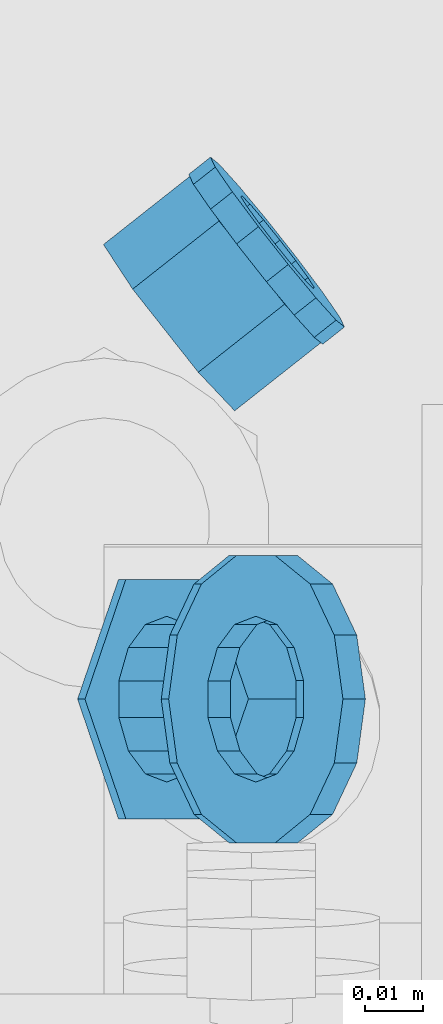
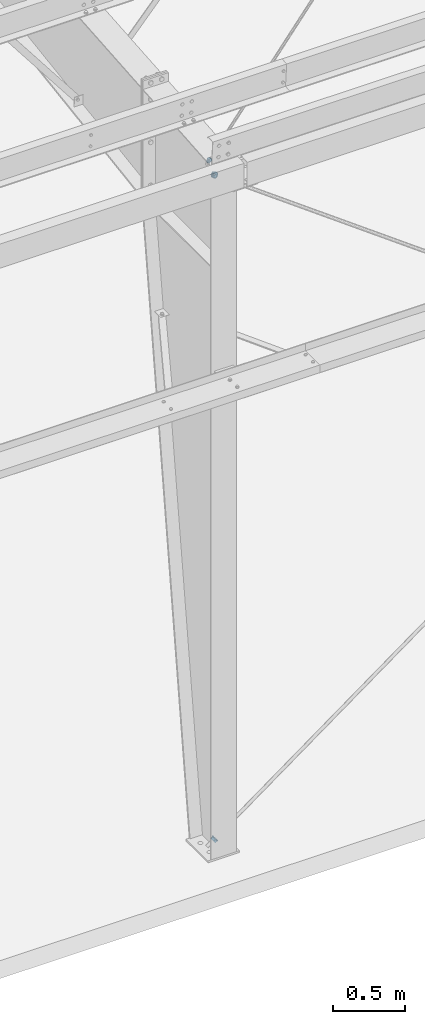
# One storey, part 31 of 185: 4 members, 2 beams, 6 elements without a shape of their own.
"""IFC2X3 building model written with IfcOpenShell, lengths in millimetres."""

from ifc_helpers import new_model, si_unit, frame, origin_with_axes, place, context, subcontext, project, spatial, polyline, outline, extrude, material, type_object, element, aggregate, save


model = new_model("IFC2X3")

# Units and contexts
model_context = context("Model", 3, precision=1e-05, world=origin_with_axes())
body_context = subcontext(model_context, "Body", "Model", "MODEL_VIEW")
ifc_project = project(units=[si_unit("LENGTHUNIT", "METRE", prefix="MILLI"), si_unit("AREAUNIT", "SQUARE_METRE"), si_unit("VOLUMEUNIT", "CUBIC_METRE"), si_unit("MASSUNIT", "GRAM", prefix="KILO"), si_unit("TIMEUNIT", "SECOND"), si_unit("PLANEANGLEUNIT", "RADIAN"), si_unit("SOLIDANGLEUNIT", "STERADIAN"), si_unit("THERMODYNAMICTEMPERATUREUNIT", "DEGREE_CELSIUS"), si_unit("LUMINOUSINTENSITYUNIT", "LUMEN")], contexts=[model_context])

# Site, building, storey
site_placement = place(None, origin_with_axes())
site = spatial("IfcSite", under=ifc_project, at=site_placement, Name="Undefined", CompositionType="ELEMENT")
building_placement = place(site_placement, origin_with_axes())
building = spatial("IfcBuilding", under=site, at=building_placement, Name="Undefined", CompositionType="ELEMENT")
storey_placement = place(building_placement, origin_with_axes())
storey = spatial("IfcBuildingStorey", under=building, at=storey_placement, Name="Undefined", CompositionType="ELEMENT", Elevation=0.0)

# Assembly, member
assembly_1_placement = place(storey_placement, origin_with_axes())
assembly_1 = element("IfcElementAssembly", 1, at=assembly_1_placement, inside=storey, Name="Steel Assembly", AssemblyPlace="NOTDEFINED", PredefinedType="RIGID_FRAME")
ifc_material = material(Name="STEEL/55")
member_type_1 = type_object("IfcMemberType", Name="1_HEAVY_HEX_NUT", PredefinedType="NOTDEFINED")
member_1_placement = place(assembly_1_placement, frame((30060.3994760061, 363.474000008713, 139.961835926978), z_axis=(-8.18690000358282e-05, -0.999999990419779, 0.000111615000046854), x_axis=(-0.806343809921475, 0.0, -0.591447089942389)))
member_1 = element("IfcMember", 2, at=member_1_placement, type_object=member_type_1, material=ifc_material, Name="1 H HEX NUT A563", ObjectType="1_HEAVY_HEX_NUT", context=body_context, shape_type="SweptSolid", body=[
    extrude(outline(polyline([(-11.909999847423, 20.620000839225), (11.9099998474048, 20.6200008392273), (23.8099994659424, -4.9453774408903e-12), (11.9099998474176, -20.6200008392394), (-11.9099998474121, -20.6200008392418), (-23.8099994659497, -9.49285094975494e-12), (-11.909999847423, 20.620000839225)]), holes=[polyline([(11.1723718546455, -8.90966924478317), (13.9317198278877, -3.17982413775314), (13.9317198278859, 3.17982413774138), (11.17237185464, 8.9096692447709), (6.20019861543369, 12.8748450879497), (-5.45696821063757e-12, 14.2899999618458), (-6.20019861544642, 12.8748450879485), (-11.1723718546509, 8.90966924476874), (-13.931719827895, 3.17982413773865), (-13.9317198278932, -3.17982413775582), (-11.1723718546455, -8.90966924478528), (-6.20019861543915, -12.8748450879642), (0.0, -14.2899999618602), (6.20019861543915, -12.874845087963), (11.1723718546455, -8.90966924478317)])]), frame((19.0500000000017, 0.0, 2.58175642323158e-19), z_axis=(-1.0, 0.0, 0.0), x_axis=(0.0, -1.0, 0.0)), (0.0, 0.0, 1.0), 19.0),
])
aggregate(assembly_1, [member_1])

assembly_2_placement = place(storey_placement, origin_with_axes())
assembly_2 = element("IfcElementAssembly", 3, at=assembly_2_placement, inside=storey, Name="Steel Assembly", AssemblyPlace="NOTDEFINED", PredefinedType="RIGID_FRAME")
member_2_placement = place(assembly_2_placement, frame((30061.6802227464, 363.47399997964, 5785.15358821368), z_axis=(-0.000443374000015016, 0.999999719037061, -0.000604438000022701), x_axis=(-0.806329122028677, 0.0, 0.591467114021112)))
member_2 = element("IfcMember", 4, at=member_2_placement, type_object=member_type_1, material=ifc_material, Name="1 H HEX NUT A563", ObjectType="1_HEAVY_HEX_NUT", context=body_context, shape_type="SweptSolid", body=[
    extrude(outline(polyline([(-11.909999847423, 20.620000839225), (11.9099998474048, 20.6200008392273), (23.8099994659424, -4.9453774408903e-12), (11.9099998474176, -20.6200008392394), (-11.9099998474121, -20.6200008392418), (-23.8099994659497, -9.49285094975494e-12), (-11.909999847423, 20.620000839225)]), holes=[polyline([(11.1723718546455, -8.90966924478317), (13.9317198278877, -3.17982413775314), (13.9317198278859, 3.17982413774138), (11.17237185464, 8.9096692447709), (6.20019861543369, 12.8748450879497), (-5.45696821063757e-12, 14.2899999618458), (-6.20019861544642, 12.8748450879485), (-11.1723718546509, 8.90966924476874), (-13.931719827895, 3.17982413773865), (-13.9317198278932, -3.17982413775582), (-11.1723718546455, -8.90966924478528), (-6.20019861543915, -12.8748450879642), (0.0, -14.2899999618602), (6.20019861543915, -12.874845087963), (11.1723718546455, -8.90966924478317)])]), frame((19.0500000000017, 0.0, 2.58175642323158e-19), z_axis=(-1.0, 0.0, 0.0), x_axis=(0.0, -1.0, 0.0)), (0.0, 0.0, 1.0), 19.0),
])
aggregate(assembly_2, [member_2])

assembly_3_placement = place(storey_placement, origin_with_axes())
assembly_3 = element("IfcElementAssembly", 5, at=assembly_3_placement, inside=storey, Name="Steel Assembly", AssemblyPlace="NOTDEFINED", PredefinedType="RIGID_FRAME")
member_type_2 = type_object("IfcMemberType", Name="1_WASHER", PredefinedType="NOTDEFINED")
member_3_placement = place(assembly_3_placement, frame((30064.2396884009, 363.474000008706, 142.778602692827), z_axis=(-8.18690000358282e-05, -0.999999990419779, 0.000111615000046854), x_axis=(-0.806343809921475, 0.0, -0.591447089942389)))
member_3 = element("IfcMember", 6, at=member_3_placement, type_object=member_type_2, material=ifc_material, Name="1 WASHER F844", ObjectType="1_WASHER", context=body_context, shape_type="SweptSolid", body=[
    extrude(outline(polyline([(15.8366407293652, 19.8585193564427), (22.8846089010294, 11.020646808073), (25.3999996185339, 6.25277607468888e-13), (22.8846089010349, -11.0206468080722), (15.8366407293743, -19.8585193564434), (5.6520316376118, -24.7631685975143), (-5.65203163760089, -24.7631685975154), (-15.8366407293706, -19.8585193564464), (-22.8846089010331, -11.0206468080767), (-25.3999996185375, -4.32009983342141e-12), (-22.8846089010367, 11.0206468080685), (-15.8366407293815, 19.8585193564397), (-5.65203163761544, 24.7631685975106), (5.65203163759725, 24.7631685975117), (15.8366407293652, 19.8585193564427)]), holes=[polyline([(11.1723718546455, -8.90966924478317), (13.9317198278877, -3.17982413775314), (13.9317198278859, 3.17982413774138), (11.17237185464, 8.9096692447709), (6.20019861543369, 12.8748450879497), (-5.45696821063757e-12, 14.2899999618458), (-6.20019861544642, 12.8748450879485), (-11.1723718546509, 8.90966924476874), (-13.931719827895, 3.17982413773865), (-13.9317198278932, -3.17982413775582), (-11.1723718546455, -8.90966924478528), (-6.20019861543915, -12.8748450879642), (0.0, -14.2899999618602), (6.20019861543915, -12.874845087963), (11.1723718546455, -8.90966924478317)])]), frame((4.76250000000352, 2.6437185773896e-16, 5.6843418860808e-14), z_axis=(-1.0, 0.0, 0.0), x_axis=(0.0, -1.0, 0.0)), (0.0, 0.0, 1.0), 4.8),
])
aggregate(assembly_3, [member_3])

assembly_4_placement = place(storey_placement, origin_with_axes())
assembly_4 = element("IfcElementAssembly", 7, at=assembly_4_placement, inside=storey, Name="Steel Assembly", AssemblyPlace="NOTDEFINED", PredefinedType="RIGID_FRAME")
member_4_placement = place(assembly_4_placement, frame((30065.52036519, 363.473999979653, 5782.33672608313), z_axis=(-0.000443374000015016, 0.999999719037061, -0.000604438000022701), x_axis=(-0.806329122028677, 0.0, 0.591467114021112)))
member_4 = element("IfcMember", 8, at=member_4_placement, type_object=member_type_2, material=ifc_material, Name="1 WASHER F844", ObjectType="1_WASHER", context=body_context, shape_type="SweptSolid", body=[
    extrude(outline(polyline([(15.8366407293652, 19.8585193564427), (22.8846089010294, 11.020646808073), (25.3999996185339, 6.25277607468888e-13), (22.8846089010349, -11.0206468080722), (15.8366407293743, -19.8585193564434), (5.6520316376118, -24.7631685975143), (-5.65203163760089, -24.7631685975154), (-15.8366407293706, -19.8585193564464), (-22.8846089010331, -11.0206468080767), (-25.3999996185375, -4.32009983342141e-12), (-22.8846089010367, 11.0206468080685), (-15.8366407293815, 19.8585193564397), (-5.65203163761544, 24.7631685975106), (5.65203163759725, 24.7631685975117), (15.8366407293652, 19.8585193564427)]), holes=[polyline([(11.1723718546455, -8.90966924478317), (13.9317198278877, -3.17982413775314), (13.9317198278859, 3.17982413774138), (11.17237185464, 8.9096692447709), (6.20019861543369, 12.8748450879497), (-5.45696821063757e-12, 14.2899999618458), (-6.20019861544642, 12.8748450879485), (-11.1723718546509, 8.90966924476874), (-13.931719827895, 3.17982413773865), (-13.9317198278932, -3.17982413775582), (-11.1723718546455, -8.90966924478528), (-6.20019861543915, -12.8748450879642), (0.0, -14.2899999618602), (6.20019861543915, -12.874845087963), (11.1723718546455, -8.90966924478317)])]), frame((4.76250000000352, 2.6437185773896e-16, 5.6843418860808e-14), z_axis=(-1.0, 0.0, 0.0), x_axis=(0.0, -1.0, 0.0)), (0.0, 0.0, 1.0), 4.8),
])
aggregate(assembly_4, [member_4])

# Assembly, beam
assembly_5_placement = place(storey_placement, origin_with_axes())
assembly_5 = element("IfcElementAssembly", 9, at=assembly_5_placement, inside=storey, Name="Steel Assembly", AssemblyPlace="NOTDEFINED", PredefinedType="RIGID_FRAME")
beam_type_1 = type_object("IfcBeamType", Name="3/4_HEAVY_HEX_NUT", PredefinedType="NOTDEFINED")
beam_1_placement = place(assembly_5_placement, frame((30061.6612621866, 439.300217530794, 5869.75017582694), z_axis=(-0.0394516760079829, -0.0332210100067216, 0.998669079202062), x_axis=(-0.78401551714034, -0.618597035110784, -0.051549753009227)))
beam_1 = element("IfcBeam", 10, at=beam_1_placement, type_object=beam_type_1, material=ifc_material, Name="3/4 H HEX NUT A563", ObjectType="3/4_HEAVY_HEX_NUT", context=body_context, shape_type="SweptSolid", body=[
    extrude(outline(polyline([(9.13000011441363, -15.810000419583), (-9.13000011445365, -15.810000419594), (-18.2600002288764, 1.54614099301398e-11), (-9.13000011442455, 15.8100004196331), (9.13000011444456, 15.8100004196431), (18.2600002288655, 3.36513039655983e-11), (9.13000011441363, -15.810000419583)]), holes=[polyline([(-8.06850066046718, 6.43441456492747), (-10.061255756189, 2.29641597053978), (-10.0612557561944, -2.29641597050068), (-8.06850066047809, -6.43441456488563), (-4.47768005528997, -9.29799844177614), (-1.09139364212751e-11, -10.3199996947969), (4.47768005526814, -9.29799844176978), (8.0685006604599, -6.43441456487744), (10.0612557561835, -2.29641597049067), (10.0612557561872, 2.2964159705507), (8.06850066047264, 6.43441456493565), (4.47768005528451, 9.29799844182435), (7.27595761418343e-12, 10.319999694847), (-4.47768005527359, 9.2979984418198), (-8.06850066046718, 6.43441456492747)])]), frame((19.0500000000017, 0.0, 2.58175642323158e-19), z_axis=(-1.0, 0.0, 0.0), x_axis=(0.0, -1.0, 0.0)), (0.0, 0.0, 1.0), 19.0),
])
aggregate(assembly_5, [beam_1])

assembly_6_placement = place(storey_placement, origin_with_axes())
assembly_6 = element("IfcElementAssembly", 11, at=assembly_6_placement, inside=storey, Name="Steel Assembly", AssemblyPlace="NOTDEFINED", PredefinedType="RIGID_FRAME")
beam_type_2 = type_object("IfcBeamType", Name="3/4_WASHER", PredefinedType="NOTDEFINED")
beam_2_placement = place(assembly_6_placement, frame((30065.395136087, 442.246285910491, 5869.99568152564), z_axis=(-0.0394516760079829, -0.0332210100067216, 0.998669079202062), x_axis=(-0.78401551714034, -0.618597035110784, -0.051549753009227)))
beam_2 = element("IfcBeam", 12, at=beam_2_placement, type_object=beam_type_2, material=ifc_material, Name="3/4 WASHER F844", ObjectType="3/4_WASHER", context=body_context, shape_type="SweptSolid", body=[
    extrude(outline(polyline([(-11.6280845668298, -14.5811568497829), (-16.8030690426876, -8.09193156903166), (-18.649999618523, -4.54747350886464e-12), (-16.8030690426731, 8.09193156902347), (-11.6280845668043, 14.5811568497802), (-4.15001533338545, 18.1824051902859), (4.15001533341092, 18.1824051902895), (11.628084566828, 14.5811568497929), (16.8030690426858, 8.09193156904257), (18.6499996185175, 1.45519152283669e-11), (16.8030690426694, -8.09193156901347), (11.6280845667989, -14.5811568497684), (4.15001533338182, -18.182405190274), (-4.15001533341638, -18.1824051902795), (-11.6280845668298, -14.5811568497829)]), holes=[polyline([(-8.06850066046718, 6.43441456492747), (-10.061255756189, 2.29641597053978), (-10.0612557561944, -2.29641597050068), (-8.06850066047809, -6.43441456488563), (-4.47768005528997, -9.29799844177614), (-1.09139364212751e-11, -10.3199996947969), (4.47768005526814, -9.29799844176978), (8.0685006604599, -6.43441456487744), (10.0612557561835, -2.29641597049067), (10.0612557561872, 2.2964159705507), (8.06850066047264, 6.43441456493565), (4.47768005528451, 9.29799844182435), (7.27595761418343e-12, 10.319999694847), (-4.47768005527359, 9.2979984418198), (-8.06850066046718, 6.43441456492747)])]), frame((4.76250000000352, 2.6437185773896e-16, 5.6843418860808e-14), z_axis=(-1.0, 0.0, 0.0), x_axis=(0.0, -1.0, 0.0)), (0.0, 0.0, 1.0), 4.8),
])
aggregate(assembly_6, [beam_2])

save(model, "model.ifc")
